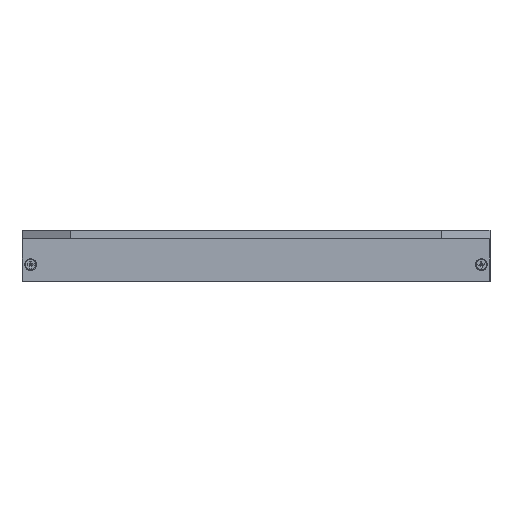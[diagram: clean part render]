
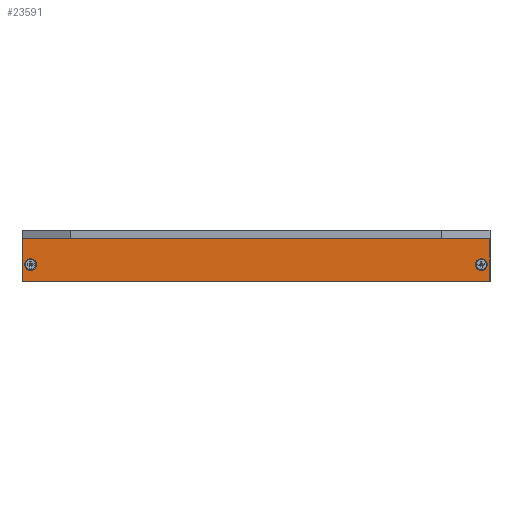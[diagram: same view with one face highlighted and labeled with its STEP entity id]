
A CAD part, front view. The second image highlights one B-rep face of the part: STEP entity #23591.
In plain terms, the highlighted planar face has unit normal (0, -1, 0).
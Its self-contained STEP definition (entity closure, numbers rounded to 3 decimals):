
#3073=DIRECTION('',(-1.,0.,0.));
#3074=VECTOR('',#3073,162.6);
#3075=CARTESIAN_POINT('',(81.3,-81.5,0.));
#3076=LINE('',#3075,#3074);
#6597=DIRECTION('',(0.,0.,-1.));
#6598=VECTOR('',#6597,14.8);
#6599=CARTESIAN_POINT('',(81.3,-81.5,0.));
#6600=LINE('',#6599,#6598);
#6601=CARTESIAN_POINT('',(-78.5,-81.5,-9.));
#6602=DIRECTION('',(0.,1.,0.));
#6603=DIRECTION('',(0.,0.,1.));
#6604=AXIS2_PLACEMENT_3D('',#6601,#6602,#6603);
#6606=CARTESIAN_POINT('',(-78.5,-81.5,-9.));
#6607=DIRECTION('',(0.,1.,0.));
#6608=DIRECTION('',(0.,0.,-1.));
#6609=AXIS2_PLACEMENT_3D('',#6606,#6607,#6608);
#6611=CARTESIAN_POINT('',(78.5,-81.5,-9.));
#6612=DIRECTION('',(0.,1.,0.));
#6613=DIRECTION('',(0.,0.,-1.));
#6614=AXIS2_PLACEMENT_3D('',#6611,#6612,#6613);
#6616=CARTESIAN_POINT('',(78.5,-81.5,-9.));
#6617=DIRECTION('',(0.,1.,0.));
#6618=DIRECTION('',(0.,0.,1.));
#6619=AXIS2_PLACEMENT_3D('',#6616,#6617,#6618);
#6621=DIRECTION('',(1.,0.,0.));
#6622=VECTOR('',#6621,162.6);
#6623=CARTESIAN_POINT('',(-81.3,-81.5,-14.8));
#6624=LINE('',#6623,#6622);
#6625=DIRECTION('',(0.,0.,-1.));
#6626=VECTOR('',#6625,14.8);
#6627=CARTESIAN_POINT('',(-81.3,-81.5,0.));
#6628=LINE('',#6627,#6626);
#11217=CARTESIAN_POINT('',(-81.3,-81.5,-14.8));
#11218=VERTEX_POINT('',#11217);
#11225=CARTESIAN_POINT('',(81.3,-81.5,-14.8));
#11226=VERTEX_POINT('',#11225);
#11227=CARTESIAN_POINT('',(78.5,-81.5,-7.));
#11228=CARTESIAN_POINT('',(78.5,-81.5,-11.));
#11229=VERTEX_POINT('',#11227);
#11230=VERTEX_POINT('',#11228);
#11231=CARTESIAN_POINT('',(-78.5,-81.5,-11.));
#11232=CARTESIAN_POINT('',(-78.5,-81.5,-7.));
#11233=VERTEX_POINT('',#11231);
#11234=VERTEX_POINT('',#11232);
#13521=CARTESIAN_POINT('',(-81.3,-81.5,0.));
#13523=VERTEX_POINT('',#13521);
#13524=CARTESIAN_POINT('',(81.3,-81.5,0.));
#13525=VERTEX_POINT('',#13524);
#23567=CARTESIAN_POINT('',(-81.5,-81.5,-15.));
#23568=DIRECTION('',(0.,-1.,0.));
#23569=DIRECTION('',(0.,0.,1.));
#23570=AXIS2_PLACEMENT_3D('',#23567,#23568,#23569);
#23571=PLANE('',#23570);
#23572=ORIENTED_EDGE('',*,*,#23562,.T.);
#23573=ORIENTED_EDGE('',*,*,#23532,.F.);
#23575=ORIENTED_EDGE('',*,*,#23574,.F.);
#23576=ORIENTED_EDGE('',*,*,#18366,.F.);
#23577=EDGE_LOOP('',(#23572,#23573,#23575,#23576));
#23578=FACE_OUTER_BOUND('',#23577,.F.);
#23580=ORIENTED_EDGE('',*,*,#23579,.F.);
#23582=ORIENTED_EDGE('',*,*,#23581,.F.);
#23583=EDGE_LOOP('',(#23580,#23582));
#23584=FACE_BOUND('',#23583,.F.);
#23586=ORIENTED_EDGE('',*,*,#23585,.F.);
#23588=ORIENTED_EDGE('',*,*,#23587,.F.);
#23589=EDGE_LOOP('',(#23586,#23588));
#23590=FACE_BOUND('',#23589,.F.);
#23591=ADVANCED_FACE('',(#23578,#23584,#23590),#23571,.T.);
#6605=CIRCLE('',#6604,2.);
#6610=CIRCLE('',#6609,2.);
#6615=CIRCLE('',#6614,2.);
#6620=CIRCLE('',#6619,2.);
#18366=EDGE_CURVE('',#13525,#13523,#3076,.T.);
#23532=EDGE_CURVE('',#11218,#11226,#6624,.T.);
#23562=EDGE_CURVE('',#13525,#11226,#6600,.T.);
#23574=EDGE_CURVE('',#13523,#11218,#6628,.T.);
#23579=EDGE_CURVE('',#11230,#11229,#6615,.T.);
#23581=EDGE_CURVE('',#11229,#11230,#6620,.T.);
#23585=EDGE_CURVE('',#11234,#11233,#6605,.T.);
#23587=EDGE_CURVE('',#11233,#11234,#6610,.T.);
